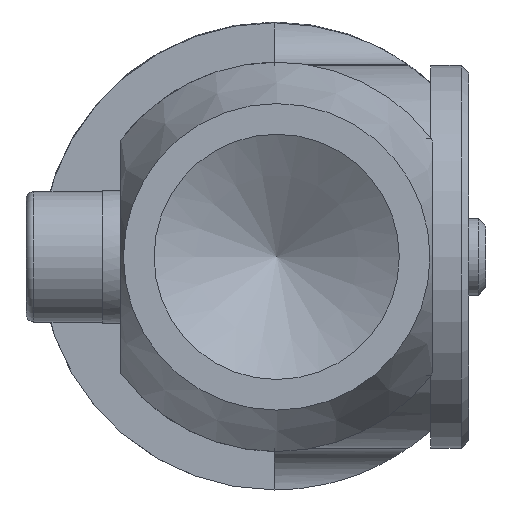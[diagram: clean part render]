
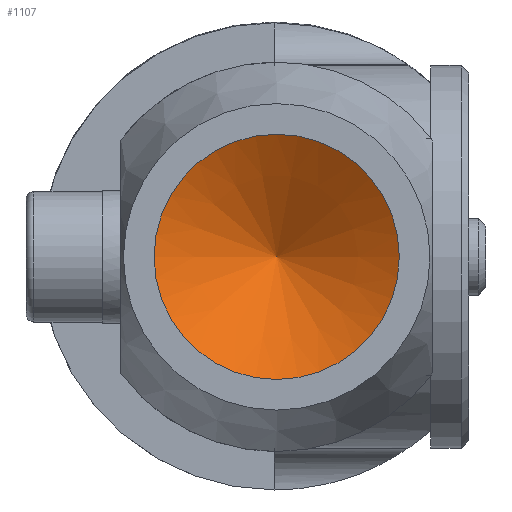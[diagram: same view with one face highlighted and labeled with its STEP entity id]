
A CAD part, front view. The second image highlights one B-rep face of the part: STEP entity #1107.
In plain terms, the highlighted conical face has half-angle 59 degrees and reference radius 4 mm.
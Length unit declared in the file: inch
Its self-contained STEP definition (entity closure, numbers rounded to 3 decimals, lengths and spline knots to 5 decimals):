
#177=FACE_OUTER_BOUND('',#250,.T.);
#250=EDGE_LOOP('',(#846,#847,#848));
#328=LINE('',#1945,#390);
#390=VECTOR('',#1533,0.15748);
#459=CIRCLE('',#1325,0.31496);
#532=VERTEX_POINT('',#1942);
#533=VERTEX_POINT('',#1944);
#650=EDGE_CURVE('',#532,#532,#459,.T.);
#651=EDGE_CURVE('',#532,#533,#328,.T.);
#846=ORIENTED_EDGE('',*,*,#650,.T.);
#847=ORIENTED_EDGE('',*,*,#651,.T.);
#848=ORIENTED_EDGE('',*,*,#651,.F.);
#1083=CONICAL_SURFACE('',#1324,0.15748,1.03);
#1107=ADVANCED_FACE('',(#177),#1083,.F.);
#1324=AXIS2_PLACEMENT_3D('',#1941,#1529,#1530);
#1325=AXIS2_PLACEMENT_3D('',#1943,#1531,#1532);
#1529=DIRECTION('center_axis',(0.,-1.,0.));
#1530=DIRECTION('ref_axis',(1.,0.,0.));
#1531=DIRECTION('center_axis',(0.,-1.,0.));
#1532=DIRECTION('ref_axis',(1.,0.,0.));
#1533=DIRECTION('',(0.857,0.515,0.));
#1941=CARTESIAN_POINT('Origin',(0.,1.43321,0.));
#1942=CARTESIAN_POINT('',(-0.31496,1.33858,0.));
#1943=CARTESIAN_POINT('Origin',(0.,1.33858,0.));
#1944=CARTESIAN_POINT('',(0.,1.52783,0.));
#1945=CARTESIAN_POINT('',(-0.15748,1.43321,0.));
